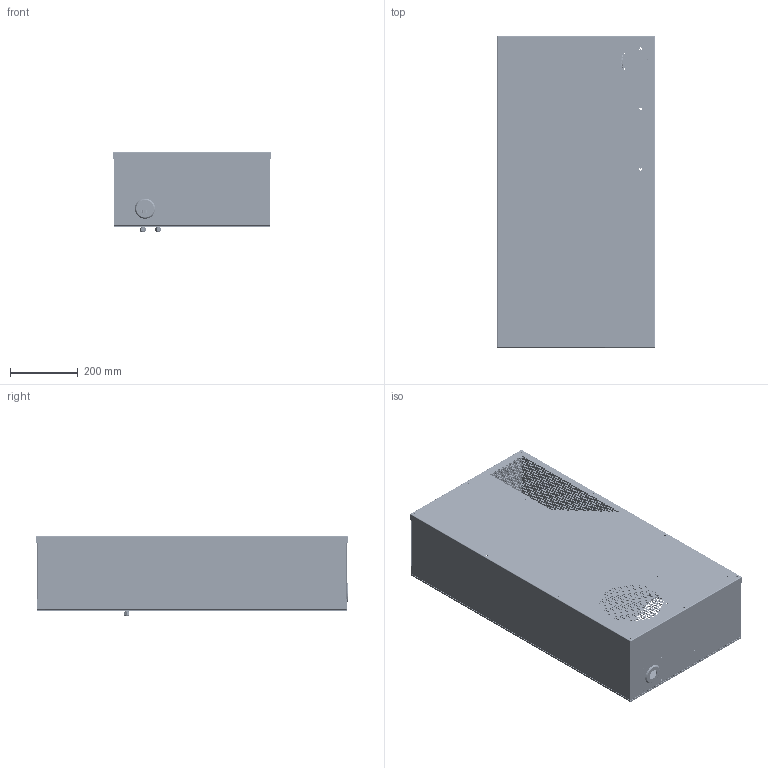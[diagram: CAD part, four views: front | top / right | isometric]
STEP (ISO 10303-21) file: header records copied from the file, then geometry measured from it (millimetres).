
FILE_DESCRIPTION((''),'2;1');
FILE_NAME('LT58100-COMPLETE_ASM','2019-04-05T08:49:18',('danielc'),(''),'CREO PARAMETRIC BY PTC INC, 2018400','CREO PARAMETRIC BY PTC INC, 2018400','');
FILE_SCHEMA(('CONFIG_CONTROL_DESIGN'));
Products named in the file (24): LT58100-MOUNTING-TEMPLATE_1; LT58100-HOUSING_1; LT58100-HOUSING-MNF_ASM_1_ASM; LT58100-MOUNTING-GASKET_1; LT58100-SUPPLY-CNNCTRS-BKT_1; LT58100-SUPPLY-CNNCTRS-BKT-MNF__ASM; MC-RJ7_62H04P_1_1; MC-RJ7_62H04P_1_2; MC-RJ7_62H04P_1_ASM; MC-7_62-4-PUSH-IN-ASSEMBLY_ASM__ASM; MC-RJ5_08H05P_1; MC-5-5-PUSH-IN-ASSEMBLY_ASM_1_ASM; CABLE_GLAND_M12_1; LT58100-SUPPLY-CONNECTORS_ASM_1_ASM; LT58100-SUPPLY-COVER_1; LT58100-HOUSING_ASM_1_ASM; LT58100-COVER_1; LT58100-COVER-MNF_ASM_1_ASM; LT58100-COVER_ASM_1_ASM; CAREL_IR33PLUS_SEIFERT_1; CAREL_IR33_PLUS_SEIFERT_ASM_1_ASM; LT58100-CONTROLLER-HOUSING_ASM__ASM; LT58100-COMPLETE-ASSY_ASM_1_ASM; LT58100-COMPLETE_ASM
Assembly tree (24 placements, depth 7):
  LT58100-COMPLETE_ASM
    LT58100-COMPLETE-ASSY_ASM_1_ASM
      LT58100-MOUNTING-TEMPLATE_1
      LT58100-HOUSING_ASM_1_ASM
        LT58100-HOUSING-MNF_ASM_1_ASM
          LT58100-HOUSING_1
        LT58100-MOUNTING-GASKET_1
        LT58100-SUPPLY-CONNECTORS_ASM_1_ASM
          LT58100-SUPPLY-CNNCTRS-BKT-MNF__ASM
            LT58100-SUPPLY-CNNCTRS-BKT_1
          MC-7_62-4-PUSH-IN-ASSEMBLY_ASM__ASM
            MC-RJ7_62H04P_1_ASM
              MC-RJ7_62H04P_1_1
              MC-RJ7_62H04P_1_2
          MC-5-5-PUSH-IN-ASSEMBLY_ASM_1_ASM
            MC-RJ5_08H05P_1
          CABLE_GLAND_M12_1  x2
        LT58100-SUPPLY-COVER_1
      LT58100-COVER_ASM_1_ASM
        LT58100-COVER-MNF_ASM_1_ASM
          LT58100-COVER_1
      LT58100-CONTROLLER-HOUSING_ASM__ASM
        CAREL_IR33_PLUS_SEIFERT_ASM_1_ASM
          CAREL_IR33PLUS_SEIFERT_1
Bounding box: 465 x 920.4 x 236.8 mm (x, y, z)
Volume: 3366835.1 mm3; surface area: 4213996.6 mm2
Topology: 12 solids, 26 shells, 6284 faces, 18278 edges, 11987 vertices
Faces by surface type: cylinder 3441, plane 2634, bspline 62, cone 58, torus 55, sphere 32, extrusion 2
Entity records: 217035 total; most frequent: CARTESIAN_POINT 39597, DIRECTION 37234, ORIENTED_EDGE 36104, EDGE_CURVE 18052, AXIS2_PLACEMENT_3D 13283, VERTEX_POINT 11889, VECTOR 10668, LINE 10666
